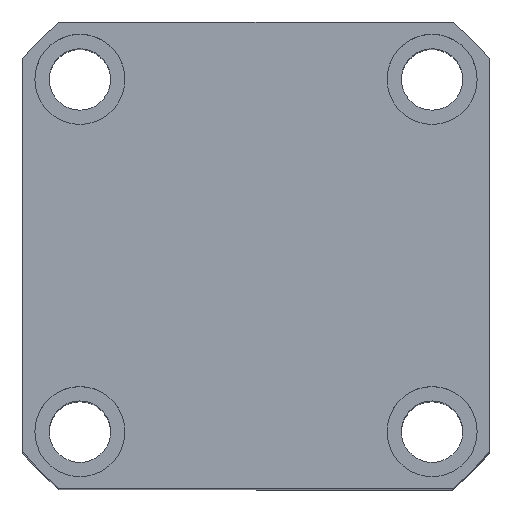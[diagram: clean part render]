
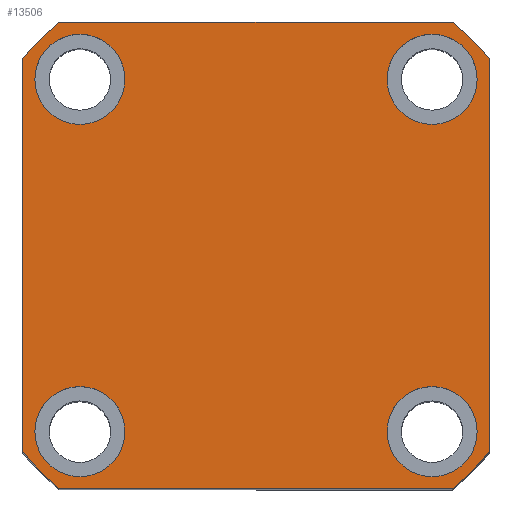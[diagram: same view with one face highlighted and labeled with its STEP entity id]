
A CAD part, top view. The second image highlights one B-rep face of the part: STEP entity #13506.
In plain terms, the highlighted planar face has unit normal (0, 0, 1) as drawn and (0, 0, -1) by its records, which use the part's own axes.
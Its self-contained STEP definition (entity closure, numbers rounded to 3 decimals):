
#51 = VERTEX_POINT ( 'NONE', #19186 ) ;
#90 = EDGE_CURVE ( 'NONE', #16680, #13925, #11307, .T. ) ;
#184 = CIRCLE ( 'NONE', #7427, 11. ) ;
#476 = DIRECTION ( 'NONE',  ( 0., 0., 1. ) ) ;
#674 = AXIS2_PLACEMENT_3D ( 'NONE', #15264, #5808, #16867 ) ;
#1187 = FACE_BOUND ( 'NONE', #9838, .T. ) ;
#1236 = CARTESIAN_POINT ( 'NONE',  ( -57., 47.971, 0. ) ) ;
#1251 = DIRECTION ( 'NONE',  ( 0., 0., -1. ) ) ;
#1354 = EDGE_LOOP ( 'NONE', ( #10295, #1396 ) ) ;
#1372 = CARTESIAN_POINT ( 'NONE',  ( -57., 57., 0. ) ) ;
#1396 = ORIENTED_EDGE ( 'NONE', *, *, #8215, .F. ) ;
#1646 = EDGE_LOOP ( 'NONE', ( #10042, #17954, #13764, #4382, #8049, #3873, #19670, #14970 ) ) ;
#1673 = FACE_BOUND ( 'NONE', #14109, .T. ) ;
#1946 = VERTEX_POINT ( 'NONE', #11492 ) ;
#2040 = PLANE ( 'NONE',  #9681 ) ;
#2216 = EDGE_CURVE ( 'NONE', #13925, #16680, #3634, .T. ) ;
#2683 = CARTESIAN_POINT ( 'NONE',  ( 0., 0., 0. ) ) ;
#3015 = EDGE_CURVE ( 'NONE', #6360, #20318, #9690, .T. ) ;
#3069 = DIRECTION ( 'NONE',  ( 0., 1., 0. ) ) ;
#3200 = CIRCLE ( 'NONE', #10733, 74.5 ) ;
#3206 = CARTESIAN_POINT ( 'NONE',  ( 32., 43., 0. ) ) ;
#3426 = DIRECTION ( 'NONE',  ( -1., 0., 0. ) ) ;
#3468 = DIRECTION ( 'NONE',  ( 0., 0., -1. ) ) ;
#3634 = CIRCLE ( 'NONE', #18730, 11. ) ;
#3641 = DIRECTION ( 'NONE',  ( 0., 0., 1. ) ) ;
#3720 = CARTESIAN_POINT ( 'NONE',  ( 47.971, -57., 0. ) ) ;
#3840 = DIRECTION ( 'NONE',  ( 0., 0., 1. ) ) ;
#3873 = ORIENTED_EDGE ( 'NONE', *, *, #3015, .F. ) ;
#4032 = EDGE_CURVE ( 'NONE', #51, #20448, #4753, .T. ) ;
#4276 = DIRECTION ( 'NONE',  ( 1., 0., 0. ) ) ;
#4330 = DIRECTION ( 'NONE',  ( 1., 0., 0. ) ) ;
#4382 = ORIENTED_EDGE ( 'NONE', *, *, #18868, .F. ) ;
#4664 = LINE ( 'NONE', #10535, #16775 ) ;
#4753 = LINE ( 'NONE', #17509, #13135 ) ;
#4873 = AXIS2_PLACEMENT_3D ( 'NONE', #13278, #3840, #14860 ) ;
#4994 = DIRECTION ( 'NONE',  ( -1., 0., 0. ) ) ;
#5019 = ORIENTED_EDGE ( 'NONE', *, *, #20194, .F. ) ;
#5050 = DIRECTION ( 'NONE',  ( 0., 0., -1. ) ) ;
#5085 = EDGE_CURVE ( 'NONE', #7848, #17332, #14595, .T. ) ;
#5103 = CARTESIAN_POINT ( 'NONE',  ( -32., -43., 0. ) ) ;
#5136 = CARTESIAN_POINT ( 'NONE',  ( 0., 0., 0. ) ) ;
#5368 = FACE_BOUND ( 'NONE', #1354, .T. ) ;
#5493 = VECTOR ( 'NONE', #10887, 1000. ) ;
#5626 = EDGE_CURVE ( 'NONE', #7876, #14078, #10164, .T. ) ;
#5808 = DIRECTION ( 'NONE',  ( 0., 0., -1. ) ) ;
#5968 = CARTESIAN_POINT ( 'NONE',  ( -43., -43., 0. ) ) ;
#6055 = CARTESIAN_POINT ( 'NONE',  ( 43., 43., 0. ) ) ;
#6244 = AXIS2_PLACEMENT_3D ( 'NONE', #15803, #6330, #17408 ) ;
#6297 = CARTESIAN_POINT ( 'NONE',  ( 54., 43., 0. ) ) ;
#6330 = DIRECTION ( 'NONE',  ( 0., 0., 1. ) ) ;
#6360 = VERTEX_POINT ( 'NONE', #1236 ) ;
#7019 = AXIS2_PLACEMENT_3D ( 'NONE', #10713, #1251, #12307 ) ;
#7057 = CIRCLE ( 'NONE', #4873, 74.5 ) ;
#7099 = CIRCLE ( 'NONE', #7019, 11. ) ;
#7115 = CIRCLE ( 'NONE', #6244, 74.5 ) ;
#7272 = CARTESIAN_POINT ( 'NONE',  ( 57., -47.971, 0. ) ) ;
#7427 = AXIS2_PLACEMENT_3D ( 'NONE', #12909, #3468, #14485 ) ;
#7570 = DIRECTION ( 'NONE',  ( -1., 0., 0. ) ) ;
#7654 = CARTESIAN_POINT ( 'NONE',  ( -32., 43., 0. ) ) ;
#7848 = VERTEX_POINT ( 'NONE', #20383 ) ;
#7876 = VERTEX_POINT ( 'NONE', #14179 ) ;
#8049 = ORIENTED_EDGE ( 'NONE', *, *, #18094, .F. ) ;
#8080 = CIRCLE ( 'NONE', #19069, 74.5 ) ;
#8215 = EDGE_CURVE ( 'NONE', #14078, #7876, #18470, .T. ) ;
#8832 = EDGE_CURVE ( 'NONE', #17332, #7848, #18707, .T. ) ;
#9234 = ORIENTED_EDGE ( 'NONE', *, *, #19807, .F. ) ;
#9269 = CARTESIAN_POINT ( 'NONE',  ( 43., -43., 0. ) ) ;
#9327 = DIRECTION ( 'NONE',  ( 0., 0., -1. ) ) ;
#9674 = DIRECTION ( 'NONE',  ( 0., 0., -1. ) ) ;
#9681 = AXIS2_PLACEMENT_3D ( 'NONE', #5136, #3641, #14667 ) ;
#9690 = LINE ( 'NONE', #1372, #5493 ) ;
#9723 = ORIENTED_EDGE ( 'NONE', *, *, #2216, .F. ) ;
#9838 = EDGE_LOOP ( 'NONE', ( #9234, #5019 ) ) ;
#9913 = VERTEX_POINT ( 'NONE', #3720 ) ;
#9937 = CARTESIAN_POINT ( 'NONE',  ( 0., 0., 0. ) ) ;
#10042 = ORIENTED_EDGE ( 'NONE', *, *, #12681, .F. ) ;
#10164 = CIRCLE ( 'NONE', #674, 11. ) ;
#10295 = ORIENTED_EDGE ( 'NONE', *, *, #5626, .F. ) ;
#10535 = CARTESIAN_POINT ( 'NONE',  ( -57., -57., 0. ) ) ;
#10713 = CARTESIAN_POINT ( 'NONE',  ( -43., 43., 0. ) ) ;
#10733 = AXIS2_PLACEMENT_3D ( 'NONE', #2683, #13728, #4276 ) ;
#10872 = DIRECTION ( 'NONE',  ( -1., 0., 0. ) ) ;
#10887 = DIRECTION ( 'NONE',  ( 0., -1., 0. ) ) ;
#11047 = VECTOR ( 'NONE', #3069, 1000. ) ;
#11307 = CIRCLE ( 'NONE', #17962, 11. ) ;
#11389 = VERTEX_POINT ( 'NONE', #17869 ) ;
#11492 = CARTESIAN_POINT ( 'NONE',  ( 57., 47.971, 0. ) ) ;
#11516 = DIRECTION ( 'NONE',  ( 1., 0., 0. ) ) ;
#12307 = DIRECTION ( 'NONE',  ( -1., 0., 0. ) ) ;
#12434 = CARTESIAN_POINT ( 'NONE',  ( 54., -43., 0. ) ) ;
#12511 = ORIENTED_EDGE ( 'NONE', *, *, #8832, .F. ) ;
#12681 = EDGE_CURVE ( 'NONE', #1946, #51, #7115, .T. ) ;
#12693 = CARTESIAN_POINT ( 'NONE',  ( -47.971, 57., 0. ) ) ;
#12909 = CARTESIAN_POINT ( 'NONE',  ( -43., 43., 0. ) ) ;
#13099 = AXIS2_PLACEMENT_3D ( 'NONE', #18803, #9327, #20375 ) ;
#13135 = VECTOR ( 'NONE', #3426, 1000. ) ;
#13278 = CARTESIAN_POINT ( 'NONE',  ( 0., 0., 0. ) ) ;
#13506 = ADVANCED_FACE ( 'NONE', ( #5368, #13795, #1673, #1187, #17491 ), #2040, .F. ) ;
#13728 = DIRECTION ( 'NONE',  ( 0., 0., 1. ) ) ;
#13764 = ORIENTED_EDGE ( 'NONE', *, *, #19923, .F. ) ;
#13795 = FACE_BOUND ( 'NONE', #17652, .T. ) ;
#13925 = VERTEX_POINT ( 'NONE', #6297 ) ;
#14078 = VERTEX_POINT ( 'NONE', #5103 ) ;
#14109 = EDGE_LOOP ( 'NONE', ( #16193, #9723 ) ) ;
#14179 = CARTESIAN_POINT ( 'NONE',  ( -54., -43., 0. ) ) ;
#14485 = DIRECTION ( 'NONE',  ( -1., 0., 0. ) ) ;
#14486 = EDGE_CURVE ( 'NONE', #16367, #1946, #15740, .T. ) ;
#14595 = CIRCLE ( 'NONE', #13099, 11. ) ;
#14667 = DIRECTION ( 'NONE',  ( 1., 0., 0. ) ) ;
#14860 = DIRECTION ( 'NONE',  ( 1., 0., 0. ) ) ;
#14970 = ORIENTED_EDGE ( 'NONE', *, *, #4032, .F. ) ;
#15264 = CARTESIAN_POINT ( 'NONE',  ( -43., -43., 0. ) ) ;
#15740 = LINE ( 'NONE', #17349, #11047 ) ;
#15749 = VERTEX_POINT ( 'NONE', #20272 ) ;
#15761 = VERTEX_POINT ( 'NONE', #7654 ) ;
#15803 = CARTESIAN_POINT ( 'NONE',  ( 0., 0., 0. ) ) ;
#16193 = ORIENTED_EDGE ( 'NONE', *, *, #90, .F. ) ;
#16212 = EDGE_CURVE ( 'NONE', #20448, #6360, #7057, .T. ) ;
#16367 = VERTEX_POINT ( 'NONE', #7272 ) ;
#16578 = AXIS2_PLACEMENT_3D ( 'NONE', #5968, #17034, #7570 ) ;
#16680 = VERTEX_POINT ( 'NONE', #3206 ) ;
#16775 = VECTOR ( 'NONE', #4330, 1000. ) ;
#16867 = DIRECTION ( 'NONE',  ( -1., 0., 0. ) ) ;
#17034 = DIRECTION ( 'NONE',  ( 0., 0., -1. ) ) ;
#17332 = VERTEX_POINT ( 'NONE', #12434 ) ;
#17349 = CARTESIAN_POINT ( 'NONE',  ( 57., 57., 0. ) ) ;
#17408 = DIRECTION ( 'NONE',  ( 1., 0., 0. ) ) ;
#17491 = FACE_OUTER_BOUND ( 'NONE', #1646, .T. ) ;
#17499 = CARTESIAN_POINT ( 'NONE',  ( 43., 43., 0. ) ) ;
#17509 = CARTESIAN_POINT ( 'NONE',  ( -57., 57., 0. ) ) ;
#17652 = EDGE_LOOP ( 'NONE', ( #17691, #12511 ) ) ;
#17691 = ORIENTED_EDGE ( 'NONE', *, *, #5085, .F. ) ;
#17869 = CARTESIAN_POINT ( 'NONE',  ( -47.971, -57., 0. ) ) ;
#17954 = ORIENTED_EDGE ( 'NONE', *, *, #14486, .F. ) ;
#17962 = AXIS2_PLACEMENT_3D ( 'NONE', #17499, #9674, #18397 ) ;
#18094 = EDGE_CURVE ( 'NONE', #20318, #11389, #3200, .T. ) ;
#18397 = DIRECTION ( 'NONE',  ( -1., 0., 0. ) ) ;
#18470 = CIRCLE ( 'NONE', #16578, 11. ) ;
#18707 = CIRCLE ( 'NONE', #19361, 11. ) ;
#18719 = CARTESIAN_POINT ( 'NONE',  ( -57., -47.971, 0. ) ) ;
#18730 = AXIS2_PLACEMENT_3D ( 'NONE', #6055, #5050, #4994 ) ;
#18803 = CARTESIAN_POINT ( 'NONE',  ( 43., -43., 0. ) ) ;
#18868 = EDGE_CURVE ( 'NONE', #11389, #9913, #4664, .T. ) ;
#19069 = AXIS2_PLACEMENT_3D ( 'NONE', #9937, #476, #11516 ) ;
#19186 = CARTESIAN_POINT ( 'NONE',  ( 47.971, 57., 0. ) ) ;
#19361 = AXIS2_PLACEMENT_3D ( 'NONE', #9269, #20325, #10872 ) ;
#19670 = ORIENTED_EDGE ( 'NONE', *, *, #16212, .F. ) ;
#19807 = EDGE_CURVE ( 'NONE', #15749, #15761, #184, .T. ) ;
#19923 = EDGE_CURVE ( 'NONE', #9913, #16367, #8080, .T. ) ;
#20194 = EDGE_CURVE ( 'NONE', #15761, #15749, #7099, .T. ) ;
#20272 = CARTESIAN_POINT ( 'NONE',  ( -54., 43., 0. ) ) ;
#20318 = VERTEX_POINT ( 'NONE', #18719 ) ;
#20325 = DIRECTION ( 'NONE',  ( 0., 0., -1. ) ) ;
#20375 = DIRECTION ( 'NONE',  ( -1., 0., 0. ) ) ;
#20383 = CARTESIAN_POINT ( 'NONE',  ( 32., -43., 0. ) ) ;
#20448 = VERTEX_POINT ( 'NONE', #12693 ) ;
